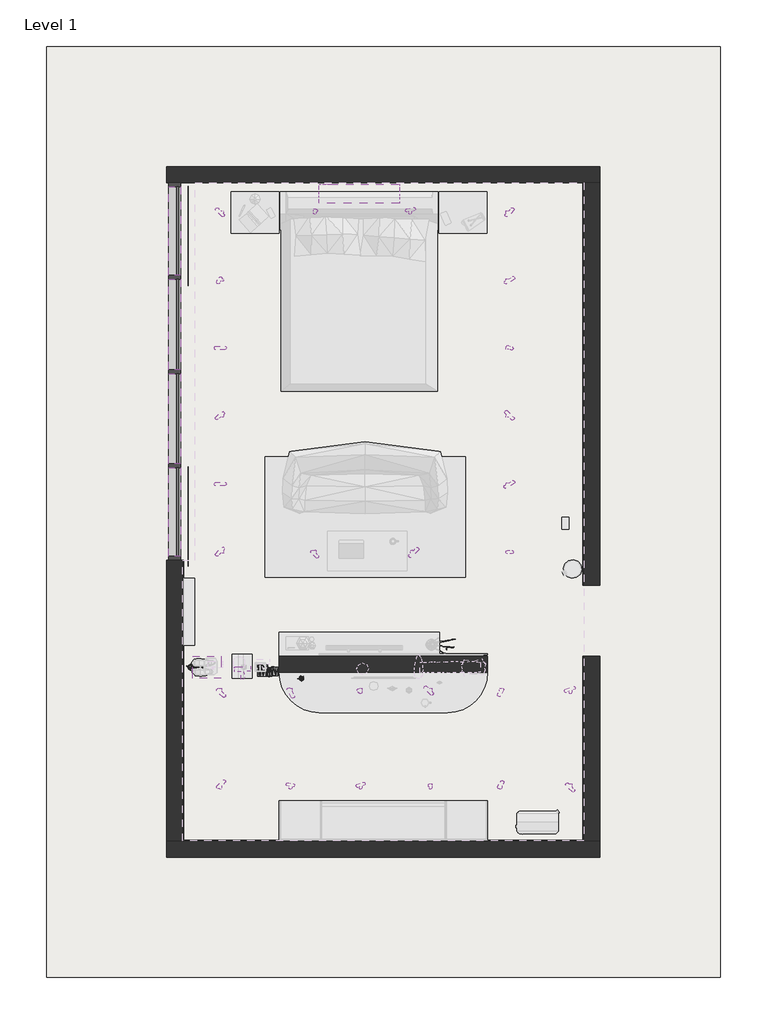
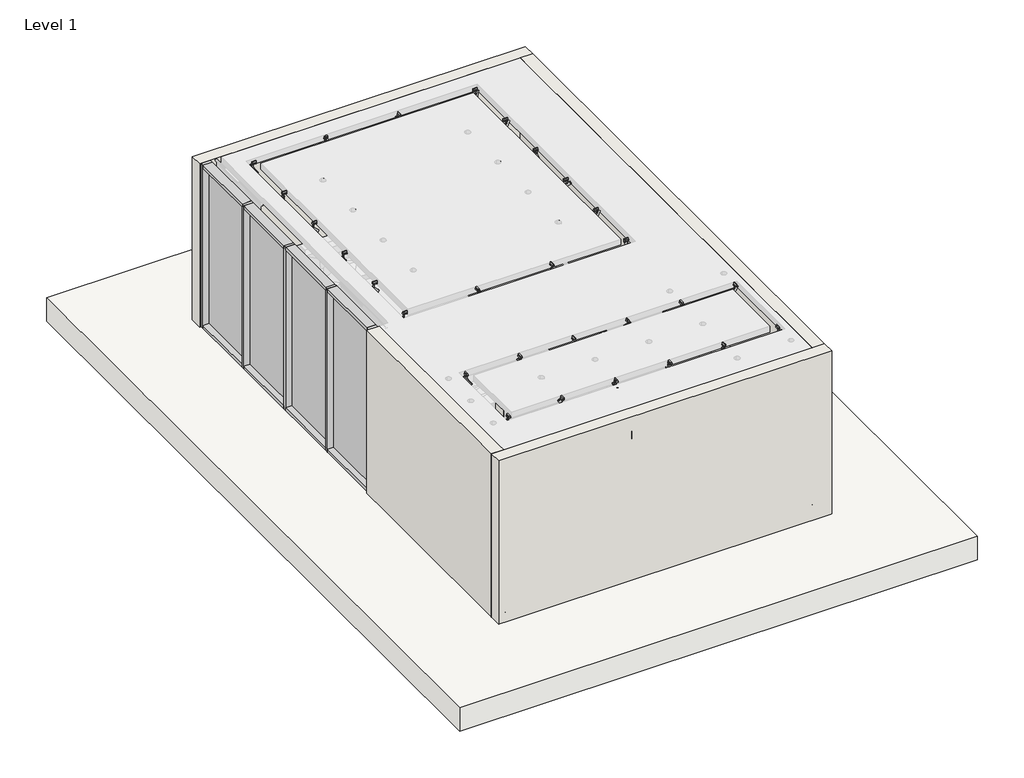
# One storey, part 1 of 2: 28 light fixtures, 13 members, 6 geographic elements, 5 walls, 4 plates, 1 proxy, 1 slab.
"""IFC4 building model written with IfcOpenShell, lengths in millimetres."""

from ifc_helpers import new_model, si_unit, frame, origin, origin_with_axes, place, context, project, spatial, polyline, circle_curve, outline, extrude, faceted_brep, transform, mapped, element, save
from ifc_brep_helpers import plane_surface, revolved_surface, advanced_brep
from components import mechanical_equipment_e18acb15, geographic_element_7c65a5d7, geographic_element_906ff1fe, enscape_assetdefinition_books_009_enscape_assetdefinition_d1216bc1, enscape_assetdefinition_framed_photo_002_enscape_b43454c2, enscape_assetdefinition_pencil_container_001_enscape_4b7912f9, light_fixture_933f2345, light_fixture_5da330bd, light_fixture_ddc943ea, light_fixture_b4967820, light_fixture_a5907969, light_fixture_6a247ec5, light_fixture_d9bcc872, light_fixture_5d1ad320, light_fixture_576be489, light_fixture_b349a2e9, light_fixture_6916883d, light_fixture_6174c632, light_fixture_952d7ee1, light_fixture_19428bb1, light_fixture_0d42040f, light_fixture_c1229501, light_fixture_c654edfe, light_fixture_0cd06d8f, light_fixture_a01f3050, light_fixture_695a9ad5, light_fixture_e3e40d72, light_fixture_8a452a98, light_fixture_2f70da15, light_fixture_e13ffc83, light_fixture_79c06d4e, rectangular_mullion_50_x_150mm_d11e3bb4, rectangular_mullion_50_x_150mm_32aaa733, rectangular_mullion_50_x_150mm_47d828c5, rectangular_mullion_50_x_150mm_8ab33052, system_panel_glazed_6057b9a2, system_panel_glazed_3679fc01

model = new_model("IFC4")

# Units and contexts
model_context = context("Model", 3, world=origin())
ifc_project = project(units=[si_unit("LENGTHUNIT", "METRE", prefix="MILLI")], contexts=[model_context])

# Site, building, storey
site = spatial("IfcSite", under=ifc_project)
building = spatial("IfcBuilding", under=site)
storey = spatial("IfcBuildingStorey", under=building, Name="Level 1", Elevation=0.0)

# Proxy
placement = place(None, origin())
mechanical_equipment_shape = mechanical_equipment_e18acb15(model_context)
element("IfcBuildingElementProxy", 1, Name="Fujitsu General_ASYG18LFCA : ASYG18LFCA", ObjectType="Fujitsu General_ASYG18LFCA : ASYG18LFCA", at=placement, inside=storey, context=model_context, shape_type="MappedRepresentation", body=[
    mapped(mechanical_equipment_shape, transform((3001.8449565, 18.5959575, 2406.9065749), x_axis=(-1.0, 0.0, 0.0), y_axis=(0.0, 0.0, -1.0), z_axis=(0.0, -1.0, 0.0))),
])

# Geographic elements
geographic_element_shape = geographic_element_7c65a5d7(model_context)
element("IfcGeographicElement", 2, ObjectType="Enscape AssetDefinition - Candle Tray 002 : Enscape AssetDefinition - Candle Tray 002", at=placement, inside=storey, context=model_context, shape_type="MappedRepresentation", body=[
    mapped(geographic_element_shape, transform((1101.2832069, -6001.7968462, 1726.0), x_axis=(1.0, 0.0, 0.0), y_axis=(0.0, 1.0, 0.0), z_axis=(0.0, 0.0, 1.0))),
])
geographic_element_2_shape = geographic_element_906ff1fe(model_context)
element("IfcGeographicElement", 3, ObjectType="Enscape AssetDefinition - Decorative Goods 030 Room Fragrance : Enscape AssetDefinition - Decorative Goods 030 Room Fragrance", at=placement, inside=storey, context=model_context, shape_type="MappedRepresentation", body=[
    mapped(geographic_element_2_shape, transform((2281.8449565, -6141.8363042, 900.0), x_axis=(1.0, 0.0, 0.0), y_axis=(0.0, 1.0, 0.0), z_axis=(0.0, 0.0, 1.0))),
])
enscape_assetdefinition_books_009_enscape_assetdefinition_shape = enscape_assetdefinition_books_009_enscape_assetdefinition_d1216bc1(model_context)
element("IfcGeographicElement", 4, ObjectType="Enscape AssetDefinition - Books 009 : Enscape AssetDefinition - Books 009", at=placement, inside=storey, context=model_context, shape_type="MappedRepresentation", body=[
    mapped(enscape_assetdefinition_books_009_enscape_assetdefinition_shape, transform((1860.6412068, -6045.4040425, 991.0), x_axis=(1.0, 0.0, 0.0), y_axis=(0.0, 1.0, 0.0), z_axis=(0.0, 0.0, 1.0))),
])
element("IfcGeographicElement", 5, ObjectType="Enscape AssetDefinition - Books 009 : Enscape AssetDefinition - Books 009", at=placement, inside=storey, context=model_context, shape_type="MappedRepresentation", body=[
    mapped(enscape_assetdefinition_books_009_enscape_assetdefinition_shape, transform((1860.6412068, -6045.4040425, 991.0), x_axis=(1.0, 0.0, 0.0), y_axis=(0.0, 1.0, 0.0), z_axis=(0.0, 0.0, 1.0))),
])
enscape_assetdefinition_framed_photo_002_enscape_shape = enscape_assetdefinition_framed_photo_002_enscape_b43454c2(model_context)
element("IfcGeographicElement", 6, ObjectType="Enscape AssetDefinition - Framed Photo 002 : Enscape AssetDefinition - Framed Photo 002", at=placement, inside=storey, context=model_context, shape_type="MappedRepresentation", body=[
    mapped(enscape_assetdefinition_framed_photo_002_enscape_shape, transform((1561.8449565, -6005.4040425, 1971.0), x_axis=(-1.0, 0.0, 0.0), y_axis=(0.0, -1.0, 0.0), z_axis=(0.0, 0.0, 1.0))),
])
enscape_assetdefinition_pencil_container_001_enscape_shape = enscape_assetdefinition_pencil_container_001_enscape_4b7912f9(model_context)
element("IfcGeographicElement", 7, ObjectType="Enscape AssetDefinition - Pencil Container 001 : Enscape AssetDefinition - Pencil Container 001", at=placement, inside=storey, context=model_context, shape_type="MappedRepresentation", body=[
    mapped(enscape_assetdefinition_pencil_container_001_enscape_shape, transform((905.0182186, -6000.0780095, 501.0), x_axis=(1.0, 0.0, 0.0), y_axis=(0.0, 1.0, 0.0), z_axis=(0.0, 0.0, 1.0))),
])

# Light fixtures
light_fixture_shape = light_fixture_933f2345(model_context)
element("IfcLightFixture", 8, ObjectType="PIPES T XS : 490lm 7,8W 930 38°", at=placement, inside=storey, context=model_context, shape_type="MappedRepresentation", body=[
    mapped(light_fixture_shape, transform((4763.8449565, -7465.4040425, 2800.0), x_axis=(1.0, 0.0, 0.0), y_axis=(0.0, -1.0, 0.0), z_axis=(0.0, 0.0, -1.0))),
])
light_fixture_2_shape = light_fixture_5da330bd(model_context)
element("IfcLightFixture", 9, ObjectType="PIPES T XS : 490lm 7,8W 930 38°", at=placement, inside=storey, context=model_context, shape_type="MappedRepresentation", body=[
    mapped(light_fixture_2_shape, transform((2144.8449565, -7465.4040425, 2800.0), x_axis=(1.0, 0.0, 0.0), y_axis=(0.0, -1.0, 0.0), z_axis=(0.0, 0.0, -1.0))),
])
light_fixture_3_shape = light_fixture_ddc943ea(model_context)
element("IfcLightFixture", 10, ObjectType="PIPES T XS : 490lm 7,8W 930 38°", at=placement, inside=storey, context=model_context, shape_type="MappedRepresentation", body=[
    mapped(light_fixture_3_shape, transform((3017.8449565, -7465.4040425, 2800.0), x_axis=(1.0, 0.0, 0.0), y_axis=(0.0, -1.0, 0.0), z_axis=(0.0, 0.0, -1.0))),
])
light_fixture_4_shape = light_fixture_b4967820(model_context)
element("IfcLightFixture", 11, ObjectType="PIPES T XS : 490lm 7,8W 930 38°", at=placement, inside=storey, context=model_context, shape_type="MappedRepresentation", body=[
    mapped(light_fixture_4_shape, transform((3890.8449565, -7465.4040425, 2800.0), x_axis=(1.0, 0.0, 0.0), y_axis=(0.0, -1.0, 0.0), z_axis=(0.0, 0.0, -1.0))),
])
light_fixture_5_shape = light_fixture_a5907969(model_context)
element("IfcLightFixture", 12, ObjectType="PIPES T XS : 490lm 7,8W 930 38°", at=placement, inside=storey, context=model_context, shape_type="MappedRepresentation", body=[
    mapped(light_fixture_5_shape, transform((1271.8449565, -7465.4040425, 2800.0), x_axis=(1.0, 0.0, 0.0), y_axis=(0.0, -1.0, 0.0), z_axis=(0.0, 0.0, -1.0))),
])
light_fixture_6_shape = light_fixture_6a247ec5(model_context)
element("IfcLightFixture", 13, ObjectType="PIPES T XS : 490lm 7,8W 930 38°", at=placement, inside=storey, context=model_context, shape_type="MappedRepresentation", body=[
    mapped(light_fixture_6_shape, transform((5636.8449565, -7504.5675753, 2800.0), x_axis=(-1.0, 0.0, 0.0), y_axis=(0.0, 1.0, 0.0), z_axis=(0.0, 0.0, -1.0))),
])
element("IfcLightFixture", 14, ObjectType="PIPES T XS : 490lm 7,8W 930 38°", at=placement, inside=storey, context=model_context, shape_type="MappedRepresentation", body=[
    mapped(light_fixture_6_shape, transform((4881.8449565, -325.4040425, 2800.0), x_axis=(0.0, -1.0, 0.0), y_axis=(-1.0, 0.0, 0.0), z_axis=(0.0, 0.0, -1.0))),
])
element("IfcLightFixture", 15, ObjectType="PIPES T XS : 490lm 7,8W 930 38°", at=placement, inside=storey, context=model_context, shape_type="MappedRepresentation", body=[
    mapped(light_fixture_6_shape, transform((1257.9449565, -4565.4040425, 2800.0), x_axis=(0.0, 1.0, 0.0), y_axis=(1.0, 0.0, 0.0), z_axis=(0.0, 0.0, -1.0))),
])
light_fixture_7_shape = light_fixture_d9bcc872(model_context)
element("IfcLightFixture", 16, ObjectType="PIPES T XS : 490lm 7,8W 930 38°", at=placement, inside=storey, context=model_context, shape_type="MappedRepresentation", body=[
    mapped(light_fixture_7_shape, transform((1271.8449565, -6313.731108, 2800.0), x_axis=(1.0, 0.0, 0.0), y_axis=(0.0, -1.0, 0.0), z_axis=(0.0, 0.0, -1.0))),
])
light_fixture_8_shape = light_fixture_5d1ad320(model_context)
element("IfcLightFixture", 17, ObjectType="PIPES T XS : 490lm 7,8W 930 38°", at=placement, inside=storey, context=model_context, shape_type="MappedRepresentation", body=[
    mapped(light_fixture_8_shape, transform((5636.8449565, -6274.5675753, 2800.0), x_axis=(-1.0, 0.0, 0.0), y_axis=(0.0, 1.0, 0.0), z_axis=(0.0, 0.0, -1.0))),
])
light_fixture_9_shape = light_fixture_576be489(model_context)
element("IfcLightFixture", 18, ObjectType="PIPES T XS : 490lm 7,8W 930 38°", at=placement, inside=storey, context=model_context, shape_type="MappedRepresentation", body=[
    mapped(light_fixture_9_shape, transform((4763.8449565, -6313.731108, 2800.0), x_axis=(1.0, 0.0, 0.0), y_axis=(0.0, -1.0, 0.0), z_axis=(0.0, 0.0, -1.0))),
])
light_fixture_10_shape = light_fixture_b349a2e9(model_context)
element("IfcLightFixture", 19, ObjectType="PIPES T XS : 490lm 7,8W 930 38°", at=placement, inside=storey, context=model_context, shape_type="MappedRepresentation", body=[
    mapped(light_fixture_10_shape, transform((3890.8449565, -6313.731108, 2800.0), x_axis=(1.0, 0.0, 0.0), y_axis=(0.0, -1.0, 0.0), z_axis=(0.0, 0.0, -1.0))),
])
light_fixture_11_shape = light_fixture_6916883d(model_context)
element("IfcLightFixture", 20, ObjectType="PIPES T XS : 490lm 7,8W 930 38°", at=placement, inside=storey, context=model_context, shape_type="MappedRepresentation", body=[
    mapped(light_fixture_11_shape, transform((3017.8449565, -6313.731108, 2800.0), x_axis=(1.0, 0.0, 0.0), y_axis=(0.0, -1.0, 0.0), z_axis=(0.0, 0.0, -1.0))),
])
light_fixture_12_shape = light_fixture_6174c632(model_context)
element("IfcLightFixture", 21, ObjectType="PIPES T XS : 490lm 7,8W 930 38°", at=placement, inside=storey, context=model_context, shape_type="MappedRepresentation", body=[
    mapped(light_fixture_12_shape, transform((2144.8449565, -6313.731108, 2800.0), x_axis=(1.0, 0.0, 0.0), y_axis=(0.0, -1.0, 0.0), z_axis=(0.0, 0.0, -1.0))),
])
light_fixture_13_shape = light_fixture_952d7ee1(model_context)
element("IfcLightFixture", 22, ObjectType="PIPES T XS : 490lm 7,8W 930 38°", at=placement, inside=storey, context=model_context, shape_type="MappedRepresentation", body=[
    mapped(light_fixture_13_shape, transform((4882.8131901, -1173.4040425, 2800.0), x_axis=(0.0, -1.0, 0.0), y_axis=(-1.0, 0.0, 0.0), z_axis=(0.0, 0.0, -1.0))),
])
light_fixture_14_shape = light_fixture_19428bb1(model_context)
element("IfcLightFixture", 23, ObjectType="PIPES T XS : 490lm 7,8W 930 38°", at=placement, inside=storey, context=model_context, shape_type="MappedRepresentation", body=[
    mapped(light_fixture_14_shape, transform((4882.8131901, -2021.4040425, 2800.0), x_axis=(0.0, -1.0, 0.0), y_axis=(-1.0, 0.0, 0.0), z_axis=(0.0, 0.0, -1.0))),
])
light_fixture_15_shape = light_fixture_0d42040f(model_context)
element("IfcLightFixture", 24, ObjectType="PIPES T XS : 490lm 7,8W 930 38°", at=placement, inside=storey, context=model_context, shape_type="MappedRepresentation", body=[
    mapped(light_fixture_15_shape, transform((4882.8131901, -2869.4040425, 2800.0), x_axis=(0.0, -1.0, 0.0), y_axis=(-1.0, 0.0, 0.0), z_axis=(0.0, 0.0, -1.0))),
])
light_fixture_16_shape = light_fixture_c1229501(model_context)
element("IfcLightFixture", 25, ObjectType="PIPES T XS : 490lm 7,8W 930 38°", at=placement, inside=storey, context=model_context, shape_type="MappedRepresentation", body=[
    mapped(light_fixture_16_shape, transform((4882.8131901, -3717.4040425, 2800.0), x_axis=(0.0, -1.0, 0.0), y_axis=(-1.0, 0.0, 0.0), z_axis=(0.0, 0.0, -1.0))),
])
light_fixture_17_shape = light_fixture_c654edfe(model_context)
element("IfcLightFixture", 26, ObjectType="PIPES T XS : 490lm 7,8W 930 38°", at=placement, inside=storey, context=model_context, shape_type="MappedRepresentation", body=[
    mapped(light_fixture_17_shape, transform((4882.8131901, -4565.4040425, 2800.0), x_axis=(0.0, -1.0, 0.0), y_axis=(-1.0, 0.0, 0.0), z_axis=(0.0, 0.0, -1.0))),
])
light_fixture_18_shape = light_fixture_0cd06d8f(model_context)
element("IfcLightFixture", 27, ObjectType="PIPES T XS : 490lm 7,8W 930 38°", at=placement, inside=storey, context=model_context, shape_type="MappedRepresentation", body=[
    mapped(light_fixture_18_shape, transform((3656.1465235, -4593.3816751, 2800.0), x_axis=(-1.0, 0.0, 0.0), y_axis=(0.0, 1.0, 0.0), z_axis=(0.0, 0.0, -1.0))),
])
light_fixture_19_shape = light_fixture_a01f3050(model_context)
element("IfcLightFixture", 28, ObjectType="PIPES T XS : 490lm 7,8W 930 38°", at=placement, inside=storey, context=model_context, shape_type="MappedRepresentation", body=[
    mapped(light_fixture_19_shape, transform((2447.9449565, -4593.4915297, 2800.0), x_axis=(-1.0, 0.0, 0.0), y_axis=(0.0, 1.0, 0.0), z_axis=(0.0, 0.0, -1.0))),
])
light_fixture_20_shape = light_fixture_695a9ad5(model_context)
element("IfcLightFixture", 29, ObjectType="PIPES T XS : 490lm 7,8W 930 38°", at=placement, inside=storey, context=model_context, shape_type="MappedRepresentation", body=[
    mapped(light_fixture_20_shape, transform((1257.9449565, -3717.4040425, 2800.0), x_axis=(0.0, 1.0, 0.0), y_axis=(1.0, 0.0, 0.0), z_axis=(0.0, 0.0, -1.0))),
])
element("IfcLightFixture", 30, ObjectType="PIPES T XS : 490lm 7,8W 930 38°", at=placement, inside=storey, context=model_context, shape_type="MappedRepresentation", body=[
    mapped(light_fixture_20_shape, transform((1257.9449565, -2021.4040425, 2800.0), x_axis=(0.0, 1.0, 0.0), y_axis=(1.0, 0.0, 0.0), z_axis=(0.0, 0.0, -1.0))),
])
light_fixture_21_shape = light_fixture_e3e40d72(model_context)
element("IfcLightFixture", 31, ObjectType="PIPES T XS : 490lm 7,8W 930 38°", at=placement, inside=storey, context=model_context, shape_type="MappedRepresentation", body=[
    mapped(light_fixture_21_shape, transform((1257.9449565, -2869.4040425, 2800.0), x_axis=(0.0, 1.0, 0.0), y_axis=(1.0, 0.0, 0.0), z_axis=(0.0, 0.0, -1.0))),
])
light_fixture_22_shape = light_fixture_8a452a98(model_context)
element("IfcLightFixture", 32, ObjectType="PIPES T XS : 490lm 7,8W 930 38°", at=placement, inside=storey, context=model_context, shape_type="MappedRepresentation", body=[
    mapped(light_fixture_22_shape, transform((1257.9449565, -325.4040425, 2800.0), x_axis=(0.0, 1.0, 0.0), y_axis=(1.0, 0.0, 0.0), z_axis=(0.0, 0.0, -1.0))),
])
light_fixture_23_shape = light_fixture_2f70da15(model_context)
element("IfcLightFixture", 33, ObjectType="PIPES T XS : 490lm 7,8W 930 38°", at=placement, inside=storey, context=model_context, shape_type="MappedRepresentation", body=[
    mapped(light_fixture_23_shape, transform((1257.9449565, -1173.4040425, 2800.0), x_axis=(0.0, 1.0, 0.0), y_axis=(1.0, 0.0, 0.0), z_axis=(0.0, 0.0, -1.0))),
])
light_fixture_24_shape = light_fixture_e13ffc83(model_context)
element("IfcLightFixture", 34, ObjectType="PIPES T XS : 490lm 7,8W 930 38°", at=placement, inside=storey, context=model_context, shape_type="MappedRepresentation", body=[
    mapped(light_fixture_24_shape, transform((2449.4798568, -300.4040425, 2800.0), x_axis=(1.0, 0.0, 0.0), y_axis=(0.0, -1.0, 0.0), z_axis=(0.0, 0.0, -1.0))),
])
light_fixture_25_shape = light_fixture_79c06d4e(model_context)
element("IfcLightFixture", 35, ObjectType="PIPES T XS : 490lm 7,8W 930 38°", at=placement, inside=storey, context=model_context, shape_type="MappedRepresentation", body=[
    mapped(light_fixture_25_shape, transform((3636.1465235, -300.4040425, 2800.0), x_axis=(1.0, 0.0, 0.0), y_axis=(0.0, -1.0, 0.0), z_axis=(0.0, 0.0, -1.0))),
])

# Members
rectangular_mullion_50_x_150mm_shape = rectangular_mullion_50_x_150mm_d11e3bb4(model_context)
element("IfcMember", 36, ObjectType="Rectangular Mullion : 50 x 150mm", at=placement, inside=storey, context=model_context, shape_type="MappedRepresentation", body=[
    mapped(rectangular_mullion_50_x_150mm_shape, transform((701.8449565, -1140.4040426, 0.0), x_axis=(0.0, -1.0, 0.0), y_axis=(-1.0, 0.0, 0.0), z_axis=(0.0, 0.0, -1.0))),
])
element("IfcMember", 37, ObjectType="Rectangular Mullion : 50 x 150mm", at=placement, inside=storey, context=model_context, shape_type="MappedRepresentation", body=[
    mapped(rectangular_mullion_50_x_150mm_shape, transform((701.8449565, -2315.4040425, 0.0), x_axis=(0.0, -1.0, 0.0), y_axis=(-1.0, 0.0, 0.0), z_axis=(0.0, 0.0, -1.0))),
])
element("IfcMember", 38, ObjectType="Rectangular Mullion : 50 x 150mm", at=placement, inside=storey, context=model_context, shape_type="MappedRepresentation", body=[
    mapped(rectangular_mullion_50_x_150mm_shape, transform((701.8449565, -3490.4040423, 0.0), x_axis=(0.0, -1.0, 0.0), y_axis=(-1.0, 0.0, 0.0), z_axis=(0.0, 0.0, -1.0))),
])
rectangular_mullion_50_x_150mm_2_shape = rectangular_mullion_50_x_150mm_32aaa733(model_context)
element("IfcMember", 39, ObjectType="Rectangular Mullion : 50 x 150mm", at=placement, inside=storey, context=model_context, shape_type="MappedRepresentation", body=[
    mapped(rectangular_mullion_50_x_150mm_2_shape, transform((701.8449565, -4665.4040425, 0.0), x_axis=(0.0, -1.0, 0.0), y_axis=(-1.0, 0.0, 0.0), z_axis=(0.0, 0.0, -1.0))),
])
element("IfcMember", 40, ObjectType="Rectangular Mullion : 50 x 150mm", at=placement, inside=storey, context=model_context, shape_type="MappedRepresentation", body=[
    mapped(rectangular_mullion_50_x_150mm_2_shape, transform((701.8449565, 34.5959575, 2800.0), x_axis=(0.0, 1.0, 0.0), y_axis=(-1.0, 0.0, 0.0), z_axis=(0.0, 0.0, 1.0))),
])
rectangular_mullion_50_x_150mm_3_shape = rectangular_mullion_50_x_150mm_47d828c5(model_context)
element("IfcMember", 41, ObjectType="Rectangular Mullion : 50 x 150mm", at=placement, inside=storey, context=model_context, shape_type="MappedRepresentation", body=[
    mapped(rectangular_mullion_50_x_150mm_3_shape, transform((701.8449565, -4615.4040425, 2800.0), x_axis=(0.0, 0.0, 1.0), y_axis=(-1.0, 0.0, 0.0), z_axis=(0.0, -1.0, 0.0))),
])
element("IfcMember", 42, ObjectType="Rectangular Mullion : 50 x 150mm", at=placement, inside=storey, context=model_context, shape_type="MappedRepresentation", body=[
    mapped(rectangular_mullion_50_x_150mm_3_shape, transform((701.8449565, -1115.4040426, 2800.0), x_axis=(0.0, 0.0, 1.0), y_axis=(-1.0, 0.0, 0.0), z_axis=(0.0, -1.0, 0.0))),
])
rectangular_mullion_50_x_150mm_4_shape = rectangular_mullion_50_x_150mm_8ab33052(model_context)
element("IfcMember", 43, ObjectType="Rectangular Mullion : 50 x 150mm", at=placement, inside=storey, context=model_context, shape_type="MappedRepresentation", body=[
    mapped(rectangular_mullion_50_x_150mm_4_shape, transform((701.8449565, -2290.4040425, 2800.0), x_axis=(0.0, 0.0, 1.0), y_axis=(-1.0, 0.0, 0.0), z_axis=(0.0, -1.0, 0.0))),
])
element("IfcMember", 44, ObjectType="Rectangular Mullion : 50 x 150mm", at=placement, inside=storey, context=model_context, shape_type="MappedRepresentation", body=[
    mapped(rectangular_mullion_50_x_150mm_4_shape, transform((701.8449565, -3465.4040423, 2800.0), x_axis=(0.0, 0.0, 1.0), y_axis=(-1.0, 0.0, 0.0), z_axis=(0.0, -1.0, 0.0))),
])
element("IfcMember", 45, ObjectType="Rectangular Mullion : 50 x 150mm", at=placement, inside=storey, context=model_context, shape_type="MappedRepresentation", body=[
    mapped(rectangular_mullion_50_x_150mm_3_shape, transform((701.8449565, -15.4040425, 0.0), x_axis=(0.0, 0.0, -1.0), y_axis=(-1.0, 0.0, 0.0), z_axis=(0.0, 1.0, 0.0))),
])
element("IfcMember", 46, ObjectType="Rectangular Mullion : 50 x 150mm", at=placement, inside=storey, context=model_context, shape_type="MappedRepresentation", body=[
    mapped(rectangular_mullion_50_x_150mm_3_shape, transform((701.8449565, -3515.4040423, 0.0), x_axis=(0.0, 0.0, -1.0), y_axis=(-1.0, 0.0, 0.0), z_axis=(0.0, 1.0, 0.0))),
])
element("IfcMember", 47, ObjectType="Rectangular Mullion : 50 x 150mm", at=placement, inside=storey, context=model_context, shape_type="MappedRepresentation", body=[
    mapped(rectangular_mullion_50_x_150mm_4_shape, transform((701.8449565, -1165.4040426, 0.0), x_axis=(0.0, 0.0, -1.0), y_axis=(-1.0, 0.0, 0.0), z_axis=(0.0, 1.0, 0.0))),
])
element("IfcMember", 48, ObjectType="Rectangular Mullion : 50 x 150mm", at=placement, inside=storey, context=model_context, shape_type="MappedRepresentation", body=[
    mapped(rectangular_mullion_50_x_150mm_4_shape, transform((701.8449565, -2340.4040425, 0.0), x_axis=(0.0, 0.0, -1.0), y_axis=(-1.0, 0.0, 0.0), z_axis=(0.0, 1.0, 0.0))),
])

# Plates
system_panel_glazed_shape = system_panel_glazed_6057b9a2(model_context)
element("IfcPlate", 49, ObjectType="System Panel : Glazed", at=placement, inside=storey, context=model_context, shape_type="MappedRepresentation", body=[
    mapped(system_panel_glazed_shape, transform((701.8449565, -565.4040425, 50.0), x_axis=(0.0, -1.0, 0.0), y_axis=(1.0, 0.0, 0.0), z_axis=(0.0, 0.0, 1.0))),
])
element("IfcPlate", 50, ObjectType="System Panel : Glazed", at=placement, inside=storey, context=model_context, shape_type="MappedRepresentation", body=[
    mapped(system_panel_glazed_shape, transform((701.8449565, -4065.4040424, 50.0), x_axis=(0.0, -1.0, 0.0), y_axis=(1.0, 0.0, 0.0), z_axis=(0.0, 0.0, 1.0))),
])
system_panel_glazed_2_shape = system_panel_glazed_3679fc01(model_context)
element("IfcPlate", 51, ObjectType="System Panel : Glazed", at=placement, inside=storey, context=model_context, shape_type="MappedRepresentation", body=[
    mapped(system_panel_glazed_2_shape, transform((701.8449565, -1727.9040425, 50.0), x_axis=(0.0, -1.0, 0.0), y_axis=(1.0, 0.0, 0.0), z_axis=(0.0, 0.0, 1.0))),
])
element("IfcPlate", 52, ObjectType="System Panel : Glazed", at=placement, inside=storey, context=model_context, shape_type="MappedRepresentation", body=[
    mapped(system_panel_glazed_2_shape, transform((701.8449565, -2902.9040424, 50.0), x_axis=(0.0, -1.0, 0.0), y_axis=(1.0, 0.0, 0.0), z_axis=(0.0, 0.0, 1.0))),
])

# Slab
element("IfcSlab", 53, ObjectType="Generic 400mm", at=placement, inside=storey, context=model_context, shape_type="SweptSolid", body=[
    extrude(outline(polyline([(-898.1550435, 1734.5959575), (7501.8449565, 1734.5959575), (7501.8449565, -9865.4040425), (-898.1550435, -9865.4040425), (-898.1550435, 1734.5959575)])), frame((0.0, 0.0, -400.0), z_axis=(0.0, 0.0, 1.0), x_axis=(1.0, 0.0, 0.0)), (0.0, 0.0, 1.0), 400.0),
])

# Walls
element("IfcWall", 54, ObjectType="Generic - 100mm", at=placement, inside=storey, context=model_context, shape_type="Brep", body=[
    faceted_brep([(6001.8449565, -8165.4040425, 0.0), (5806.8449565, -8165.4040425, 0.0), (801.8449565, -8165.4040425, 0.0), (601.8449565, -8165.4040425, 0.0), (601.8449565, -8165.4040425, 2800.0), (801.8449565, -8165.4040425, 2800.0), (5801.8449565, -8165.4040425, 2800.0), (6001.8449565, -8165.4040425, 2800.0), (6001.8449565, -8365.4040425, 0.0), (6001.8449565, -8365.4040425, 2800.0), (601.8449565, -8365.4040425, 2800.0), (601.8449565, -8365.4040425, 0.0)], [[[0, 1, 2, 3, 4, 5, 6, 7]], [[8, 9, 10, 11]], [[3, 2, 1, 0, 8, 11]], [[7, 6, 5, 4, 10, 9]], [[4, 3, 11, 10]], [[0, 7, 9, 8]]]),
])
element("IfcWall", 55, ObjectType="Generic - 100mm", at=placement, inside=storey, context=model_context, shape_type="SweptSolid", body=[
    extrude(outline(polyline([(2001.8449565, -5865.4040425), (4601.8449565, -5865.4040425), (4601.8449565, -6065.4040425), (2001.8449565, -6065.4040425), (2001.8449565, -5865.4040425)])), origin_with_axes(), (0.0, 0.0, 1.0), 2200.0),
])
element("IfcWall", 56, ObjectType="Generic - 200mm", at=placement, inside=storey, context=model_context, shape_type="Brep", body=[
    faceted_brep([(6001.8449565, 234.5959575, 0.0), (601.8449565, 234.5959575, 0.0), (601.8449565, 234.5959575, 2800.0), (6001.8449565, 234.5959575, 2800.0), (6001.8449565, 34.5959575, 0.0), (6001.8449565, 34.5959575, 2800.0), (5801.8449565, 34.5959575, 2800.0), (601.8449565, 34.5959575, 2800.0), (601.8449565, 34.5959575, 0.0), (5801.8449565, 34.5959575, 0.0)], [[[0, 1, 2, 3]], [[4, 5, 6, 7, 8, 9]], [[1, 0, 4, 9, 8]], [[2, 1, 8, 7]], [[0, 3, 5, 4]], [[3, 2, 7, 6, 5]]]),
])
element("IfcWall", 57, ObjectType="Generic - 200mm", at=placement, inside=storey, context=model_context, shape_type="SweptSolid", body=[
    extrude(outline(polyline([(801.8449565, -8165.4040425), (601.8449565, -8165.4040425), (601.8449565, -4665.4040425), (801.8449565, -4665.4040425), (801.8449565, -8165.4040425)])), origin_with_axes(), (0.0, 0.0, 1.0), 2800.0),
])
element("IfcWall", 58, ObjectType="Generic - 200mm", at=placement, inside=storey, context=model_context, shape_type="AdvancedBrep", body=[
    advanced_brep(
    [(6001.8449565, 34.5959575, 0.0), (6001.8449565, 34.5959575, 2800.0), (6001.8449565, -8165.4040425, 2800.0), (6001.8449565, -8165.4040425, 0.0), (6001.8449565, -5865.4040425, 0.0), (6001.8449565, -5865.4040425, 2090.0), (6001.8449565, -4975.4040425, 2090.0), (6001.8449565, -4975.4040425, 0.0), (5801.8449565, 34.5959575, 2800.0), (5801.8449565, 34.5959575, 0.0), (5801.8449565, -4975.4040425, 0.0), (5801.8449565, -4975.4040425, 2090.0), (5801.8449565, -5865.4040425, 2090.0), (5801.8449565, -5865.4040425, 0.0), (5801.8449565, -8154.7954982, 0.0), (5801.8449565, -8155.4613354, 4.7376777), (5801.8449565, -8156.3831107, 5.3249134), (5801.8449565, -8157.9216076, 5.3249134), (5801.8449565, -8157.9216076, 9.3340925), (5801.8449565, -8156.1569773, 9.3340925), (5801.8449565, -8156.1569773, 14.3340925), (5801.8449565, -8157.9216076, 14.3340925), (5801.8449565, -8157.9216076, 18.4025531), (5801.8449565, -8156.1569773, 18.4025531), (5801.8449565, -8156.1569773, 22.7958585), (5801.8449565, -8159.2819773, 22.7958585), (5801.8449565, -8159.2819773, 87.7958585), (5801.8449565, -8161.4973373, 87.7958585), (5801.8449565, -8161.4973373, 92.7958585), (5801.8449565, -8159.2819773, 92.7958585), (5801.8449565, -8159.2819773, 97.7787085), (5801.8449565, -8161.5032688, 100.0), (5801.8449565, -8165.4040425, 100.0), (5801.8449565, -8165.4040425, 2800.0), (5806.8449565, -8165.4040425, 0.0), (5806.8449565, -8154.7954982, 0.0), (5806.8449565, -8165.4040425, 100.0), (5806.8449565, -8155.4613354, 4.7376777), (5806.8449565, -8161.5032688, 100.0), (5806.8449565, -8159.2819773, 97.7787085), (5806.8449565, -8159.2819773, 92.7958585), (5806.8449565, -8161.4973373, 92.7958585), (5806.8449565, -8161.4973373, 87.7958585), (5806.8449565, -8159.2819773, 87.7958585), (5806.8449565, -8159.2819773, 22.7958585), (5806.8449565, -8156.1569773, 22.7958585), (5806.8449565, -8156.1569773, 18.4025531), (5806.8449565, -8157.9216076, 18.4025531), (5806.8449565, -8157.9216076, 14.3340925), (5806.8449565, -8156.1569773, 14.3340925), (5806.8449565, -8156.1569773, 9.3340925), (5806.8449565, -8157.9216076, 9.3340925), (5806.8449565, -8157.9216076, 5.3249134), (5806.8449565, -8156.3831107, 5.3249134)],
    [
        (0, 1),
        (1, 2),
        (2, 3),
        (3, 4),
        (4, 5),
        (5, 6),
        (6, 7),
        (7, 0),
        (8, 9),
        (9, 10),
        (10, 11),
        (11, 12),
        (12, 13),
        (13, 14),
        (14, 15),
        (15, 16, circle_curve(frame((5801.8449565, -8156.3831107, 4.3078468), z_axis=(1.0, 0.0, 0.0), x_axis=(0.0, 1.0, 0.0)), 1.0170665)),
        (16, 17),
        (17, 18),
        (18, 19),
        (19, 20),
        (20, 21),
        (21, 22),
        (22, 23),
        (23, 24),
        (24, 25),
        (25, 26),
        (26, 27),
        (27, 28),
        (28, 29),
        (29, 30),
        (30, 31, circle_curve(frame((5801.8449565, -8161.5032688, 97.7787085), z_axis=(1.0, 0.0, 0.0), x_axis=(0.0, 1.0, 0.0)), 2.2212915)),
        (31, 32),
        (32, 33),
        (33, 8),
        (9, 0),
        (7, 10),
        (13, 4),
        (3, 34),
        (34, 35),
        (35, 14),
        (8, 1),
        (33, 2),
        (32, 36),
        (36, 34),
        (6, 11),
        (5, 12),
        (37, 35),
        (36, 38),
        (38, 39, circle_curve(frame((5806.8449565, -8161.5032688, 97.7787085), z_axis=(-1.0, 0.0, 0.0), x_axis=(0.0, 1.0, 0.0)), 2.2212915)),
        (39, 40),
        (40, 41),
        (41, 42),
        (42, 43),
        (43, 44),
        (44, 45),
        (45, 46),
        (46, 47),
        (47, 48),
        (48, 49),
        (49, 50),
        (50, 51),
        (51, 52),
        (52, 53),
        (53, 37, circle_curve(frame((5806.8449565, -8156.3831107, 4.3078468), z_axis=(-1.0, 0.0, 0.0), x_axis=(0.0, 1.0, 0.0)), 1.0170665)),
        (31, 38),
        (37, 15),
        (53, 16),
        (52, 17),
        (51, 18),
        (50, 19),
        (49, 20),
        (48, 21),
        (47, 22),
        (46, 23),
        (45, 24),
        (44, 25),
        (43, 26),
        (42, 27),
        (41, 28),
        (40, 29),
        (39, 30),
    ],
    [
        plane_surface(frame((6001.8449565, -4165.4040425, 0.0), z_axis=(1.0, 0.0, 0.0), x_axis=(0.0, 1.0, 0.0))),
        plane_surface(frame((5801.8449565, -4165.4040425, 0.0), z_axis=(-1.0, 0.0, 0.0), x_axis=(0.0, -1.0, 0.0))),
        plane_surface(frame((6001.8449565, -8265.4040425, 0.0), z_axis=(0.0, 0.0, -1.0), x_axis=(-1.0, 0.0, 0.0))),
        plane_surface(frame((5801.8449565, 34.5959575, 0.0), z_axis=(0.0, 1.0, 0.0), x_axis=(1.0, 0.0, 0.0))),
        plane_surface(frame((6001.8449565, 234.5959575, 2800.0), z_axis=(0.0, 0.0, 1.0), x_axis=(1.0, 0.0, 0.0))),
        plane_surface(frame((6001.8449565, -8165.4040425, 0.0), z_axis=(0.0, -1.0, 0.0), x_axis=(-1.0, 0.0, 0.0))),
        plane_surface(frame((7525.8449565, -4975.4040425, 0.0), z_axis=(0.0, -1.0, 0.0), x_axis=(-1.0, 0.0, 0.0))),
        plane_surface(frame((7525.8449565, -4975.4040425, 2090.0), z_axis=(0.0, 0.0, -1.0), x_axis=(-1.0, 0.0, 0.0))),
        plane_surface(frame((7525.8449565, -5865.4040425, 2090.0), z_axis=(0.0, 1.0, 0.0), x_axis=(-1.0, 0.0, 0.0))),
        plane_surface(frame((5806.8449565, -8165.4040425, -100.0760513), z_axis=(-1.0, 0.0, 0.0), x_axis=(0.0, -1.0, 0.0))),
        plane_surface(frame((5806.8449565, -8161.5032688, 100.0), z_axis=(0.0, 0.0, -1.0), x_axis=(-1.0, 0.0, 0.0))),
        plane_surface(frame((5806.8449565, -8154.7954982, 0.0), z_axis=(0.0, -0.9902680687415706, -0.13917310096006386), x_axis=(-1.0, 0.0, 0.0))),
        revolved_surface(polyline([(5806.8449565, -8155.3660442, 4.3078468), (5801.8449565, -8155.3660442, 4.3078468)]), (5806.8449565, -8156.3831107, 4.3078468), (1.0, 0.0, 0.0)),
        plane_surface(frame((5806.8449565, -8156.3831107, 5.3249134), z_axis=(0.0, 0.0, -1.0), x_axis=(-1.0, 0.0, 0.0))),
        plane_surface(frame((5806.8449565, -8157.9216076, 5.3249134), z_axis=(0.0, -1.0, 0.0), x_axis=(-1.0, 0.0, 0.0))),
        plane_surface(frame((5806.8449565, -8157.9216076, 9.3340925), z_axis=(0.0, 0.0, 1.0), x_axis=(-1.0, 0.0, 0.0))),
        plane_surface(frame((5806.8449565, -8156.1569773, 9.3340925), z_axis=(0.0, -1.0, 0.0), x_axis=(-1.0, 0.0, 0.0))),
        plane_surface(frame((5806.8449565, -8156.1569773, 14.3340925), z_axis=(0.0, 0.0, -1.0), x_axis=(-1.0, 0.0, 0.0))),
        plane_surface(frame((5806.8449565, -8157.9216076, 14.3340925), z_axis=(0.0, -1.0, 0.0), x_axis=(-1.0, 0.0, 0.0))),
        plane_surface(frame((5806.8449565, -8157.9216076, 18.4025531), z_axis=(0.0, 0.0, 1.0), x_axis=(-1.0, 0.0, 0.0))),
        plane_surface(frame((5806.8449565, -8156.1569773, 18.4025531), z_axis=(0.0, -1.0, 0.0), x_axis=(-1.0, 0.0, 0.0))),
        plane_surface(frame((5806.8449565, -8156.1569773, 22.7958585), z_axis=(0.0, 0.0, -1.0), x_axis=(-1.0, 0.0, 0.0))),
        plane_surface(frame((5806.8449565, -8159.2819773, 22.7958585), z_axis=(0.0, -1.0, 0.0), x_axis=(-1.0, 0.0, 0.0))),
        plane_surface(frame((5806.8449565, -8159.2819773, 87.7958585), z_axis=(0.0, 0.0, -1.0), x_axis=(-1.0, 0.0, 0.0))),
        plane_surface(frame((5806.8449565, -8161.4973373, 87.7958585), z_axis=(0.0, -1.0, 0.0), x_axis=(-1.0, 0.0, 0.0))),
        plane_surface(frame((5806.8449565, -8161.4973373, 92.7958585), z_axis=(0.0, 0.0, 1.0), x_axis=(-1.0, 0.0, 0.0))),
        plane_surface(frame((5806.8449565, -8159.2819773, 92.7958585), z_axis=(0.0, -1.0, 0.0), x_axis=(-1.0, 0.0, 0.0))),
        revolved_surface(polyline([(5806.8449565, -8159.2819773, 97.7787085), (5801.8449565, -8159.2819773, 97.7787085)]), (5806.8449565, -8161.5032688, 97.7787085), (1.0, 0.0, 0.0)),
    ],
    [
        (0, [[1, 2, 3, 4, 5, 6, 7, 8]]),
        (1, [[9, 10, 11, 12, 13, 14, 15, 16, 17, 18, 19, 20, 21, 22, 23, 24, 25, 26, 27, 28, 29, 30, 31, 32, 33, 34]]),
        (2, [[35, -8, 36, -10]]),
        (2, [[37, -4, 38, 39, 40, -14]]),
        (3, [[-1, -35, -9, 41]]),
        (4, [[-2, -41, -34, 42]]),
        (5, [[-3, -42, -33, 43, 44, -38]]),
        (6, [[45, -11, -36, -7]]),
        (7, [[-45, -6, 46, -12]]),
        (8, [[-46, -5, -37, -13]]),
        (9, [[47, -39, -44, 48, 49, 50, 51, 52, 53, 54, 55, 56, 57, 58, 59, 60, 61, 62, 63, 64]]),
        (10, [[-48, -43, -32, 65]]),
        (11, [[-47, 66, -15, -40]]),
        (12, [[-64, 67, -16, -66]]),
        (13, [[-63, 68, -17, -67]]),
        (14, [[-62, 69, -18, -68]]),
        (15, [[-61, 70, -19, -69]]),
        (16, [[-60, 71, -20, -70]]),
        (17, [[-59, 72, -21, -71]]),
        (18, [[-58, 73, -22, -72]]),
        (19, [[-57, 74, -23, -73]]),
        (20, [[-56, 75, -24, -74]]),
        (21, [[-55, 76, -25, -75]]),
        (22, [[-54, 77, -26, -76]]),
        (23, [[-53, 78, -27, -77]]),
        (24, [[-52, 79, -28, -78]]),
        (25, [[-51, 80, -29, -79]]),
        (26, [[-50, 81, -30, -80]]),
        (27, [[-49, -65, -31, -81]]),
    ],
),
])

save(model, "model.ifc")
